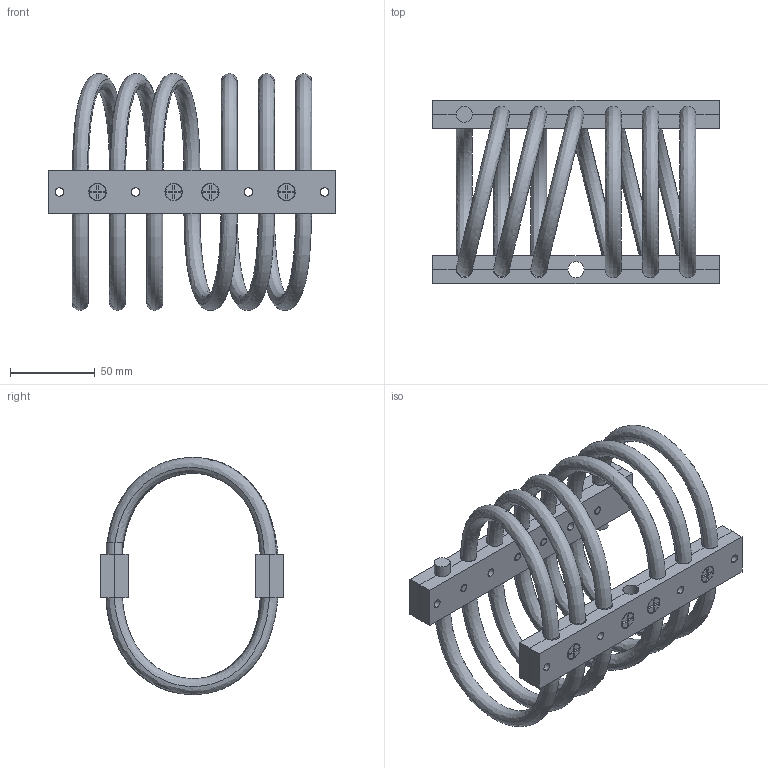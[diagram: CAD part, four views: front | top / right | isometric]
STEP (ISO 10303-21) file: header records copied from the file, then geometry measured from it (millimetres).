
FILE_DESCRIPTION (( 'STEP AP214' ), '1' );
FILE_NAME ('WR12-806-6DM.STEP', '2018-12-07T10:01:42', ( 'user' ), ( 'Microsoft' ), 'SwSTEP 2.0', 'SolidWorks 2016', '' );
FILE_SCHEMA (( 'AUTOMOTIVE_DESIGN' ));
Length unit declared in the file: millimetre
Products named in the file (1): WR12-806-6DM
Bounding box: 169.2 x 108 x 140.01 mm (x, y, z)
Volume: 282658.5 mm3; surface area: 129175.6 mm2
Topology: 26 solids, 26 shells, 484 faces, 1166 edges, 758 vertices
Faces by surface type: plane 216, cylinder 194, cone 48, bspline 26
Entity records: 25370 total; most frequent: CARTESIAN_POINT 12942, DIRECTION 2348, ORIENTED_EDGE 2332, EDGE_CURVE 1166, AXIS2_PLACEMENT_3D 843, VERTEX_POINT 758, LINE 662, VECTOR 662
